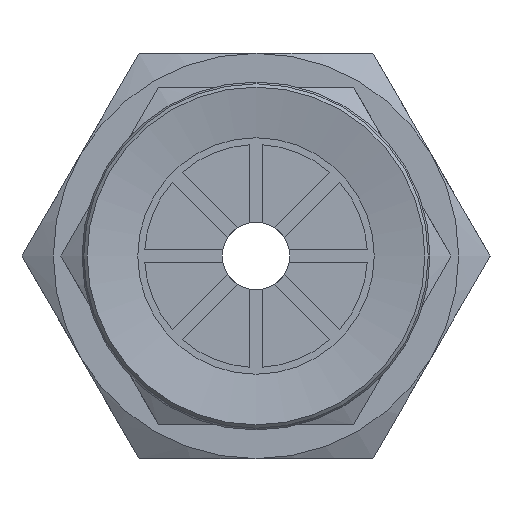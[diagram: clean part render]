
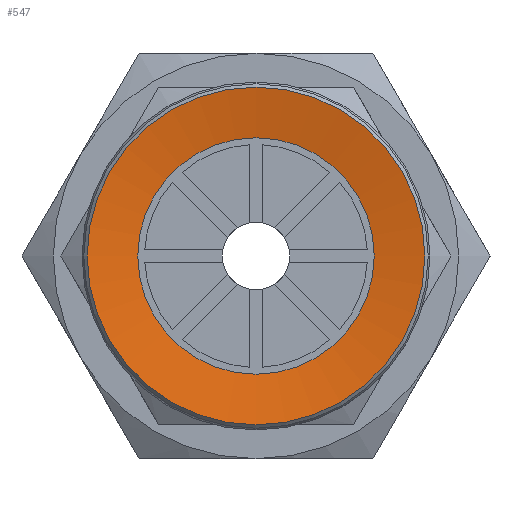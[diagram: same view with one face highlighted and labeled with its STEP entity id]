
A CAD part, front view. The second image highlights one B-rep face of the part: STEP entity #547.
In plain terms, the highlighted conical face has half-angle 80 degrees and reference radius 5 mm.
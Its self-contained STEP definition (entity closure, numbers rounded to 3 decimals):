
#547=ADVANCED_FACE('',(#827,#828),#829,.F.);
#827=FACE_BOUND('',#1194,.T.);
#828=FACE_OUTER_BOUND('',#1195,.T.);
#829=CONICAL_SURFACE('',#1196,5.0,1.396);
#1194=EDGE_LOOP('',(#1979));
#1195=EDGE_LOOP('',(#1980));
#1196=AXIS2_PLACEMENT_3D('',#1981,#1982,#1983);
#1979=ORIENTED_EDGE('',*,*,#2503,.T.);
#1980=ORIENTED_EDGE('',*,*,#2605,.F.);
#1981=CARTESIAN_POINT('',(0.0,0.,0.));
#1982=DIRECTION('',(0.0,0.,-1.0));
#1983=DIRECTION('',(0.0,1.0,0.));
#2503=EDGE_CURVE('',#2875,#2875,#2876,.T.);
#2605=EDGE_CURVE('',#3053,#3053,#3054,.T.);
#2875=VERTEX_POINT('',#3673);
#2876=CIRCLE('',#3674,3.5);
#3053=VERTEX_POINT('',#3909);
#3054=CIRCLE('',#3910,5.0);
#3673=CARTESIAN_POINT('',(0.0,-3.5,0.264));
#3674=AXIS2_PLACEMENT_3D('',#4308,#4309,#4310);
#3909=CARTESIAN_POINT('',(0.0,-5.0,0.));
#3910=AXIS2_PLACEMENT_3D('',#4498,#4499,#4500);
#4308=CARTESIAN_POINT('',(0.0,0.,0.264));
#4309=DIRECTION('',(0.0,0.,1.0));
#4310=DIRECTION('',(0.0,-1.0,0.));
#4498=CARTESIAN_POINT('',(0.0,0.,0.));
#4499=DIRECTION('',(0.0,0.,1.0));
#4500=DIRECTION('',(0.0,-1.0,0.));
